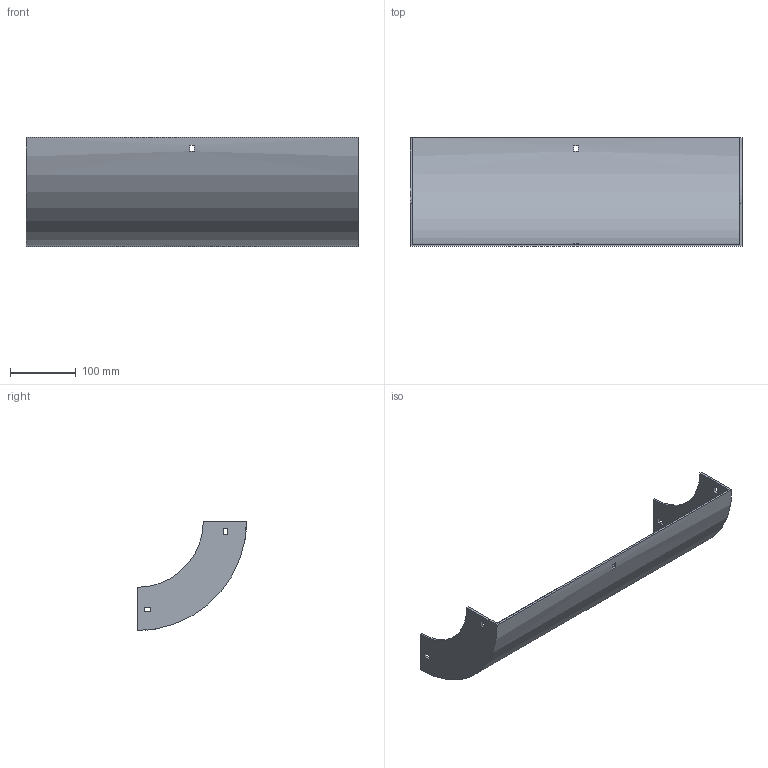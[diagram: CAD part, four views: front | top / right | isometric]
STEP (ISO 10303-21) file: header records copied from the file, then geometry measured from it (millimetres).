
FILE_DESCRIPTION (( 'STEP AP214' ), '1' );
FILE_NAME ('30B1H500.step', '2025-02-21T09:50:32', ( '' ), ( '' ), 'SwSTEP 2.0', 'SolidWorks 2023', '' );
FILE_SCHEMA (( 'AUTOMOTIVE_DESIGN' ));
Length unit declared in the file: millimetre
Products named in the file (1): 30B1H500
Bounding box: 504 x 165.5 x 165.5 mm (x, y, z)
Volume: 541646.8 mm3; surface area: 315721.4 mm2
Topology: 1 solids, 1 shells, 34 faces, 96 edges, 64 vertices
Faces by surface type: plane 30, cylinder 4
Entity records: 1143 total; most frequent: CARTESIAN_POINT 195, ORIENTED_EDGE 192, DIRECTION 182, EDGE_CURVE 96, LINE 80, VECTOR 80, VERTEX_POINT 64, AXIS2_PLACEMENT_3D 51
